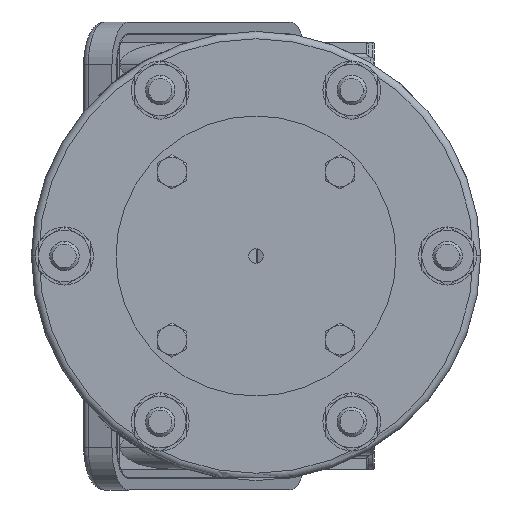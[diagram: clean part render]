
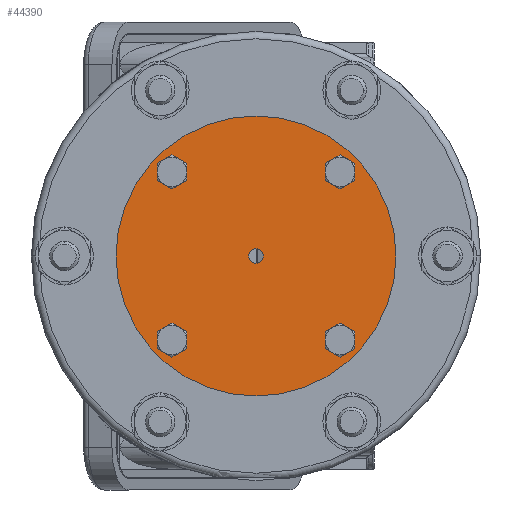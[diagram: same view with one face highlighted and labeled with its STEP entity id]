
A CAD part, front view. The second image highlights one B-rep face of the part: STEP entity #44390.
In plain terms, the highlighted planar face has unit normal (0, -1, 0).
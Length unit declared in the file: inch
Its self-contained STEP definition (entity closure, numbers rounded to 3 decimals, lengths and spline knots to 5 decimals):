
#539 = DIRECTION ( 'NONE',  ( 0., -1., 0. ) ) ;
#1319 = CARTESIAN_POINT ( 'NONE',  ( -0.2265, -4.53075, 0.71344 ) ) ;
#1356 = VERTEX_POINT ( 'NONE', #5481 ) ;
#3603 = EDGE_CURVE ( 'NONE', #22508, #57868, #56050, .T. ) ;
#3733 = CARTESIAN_POINT ( 'NONE',  ( -0.94, -4.53075, 0. ) ) ;
#3799 = CARTESIAN_POINT ( 'NONE',  ( -0.94, -4.53075, 0. ) ) ;
#4141 = DIRECTION ( 'NONE',  ( 1., 0., 0. ) ) ;
#4167 = DIRECTION ( 'NONE',  ( 0., -1., 0. ) ) ;
#5096 = CARTESIAN_POINT ( 'NONE',  ( -1.6535, -4.53075, 0.71344 ) ) ;
#5419 = ORIENTED_EDGE ( 'NONE', *, *, #3603, .F. ) ;
#5481 = CARTESIAN_POINT ( 'NONE',  ( -0.8775, -4.53075, 0. ) ) ;
#5701 = DIRECTION ( 'NONE',  ( 0., -1., 0. ) ) ;
#7085 = ORIENTED_EDGE ( 'NONE', *, *, #58462, .F. ) ;
#8220 = FACE_BOUND ( 'NONE', #11663, .T. ) ;
#8270 = EDGE_CURVE ( 'NONE', #55124, #39692, #61795, .T. ) ;
#8538 = FACE_BOUND ( 'NONE', #29992, .T. ) ;
#8665 = AXIS2_PLACEMENT_3D ( 'NONE', #47287, #41093, #19002 ) ;
#9046 = CARTESIAN_POINT ( 'NONE',  ( -0.2265, -4.53075, -0.71344 ) ) ;
#9051 = AXIS2_PLACEMENT_3D ( 'NONE', #3799, #61443, #35926 ) ;
#9443 = DIRECTION ( 'NONE',  ( 0., -1., 0. ) ) ;
#9507 = EDGE_CURVE ( 'NONE', #1356, #14464, #45748, .T. ) ;
#9526 = EDGE_LOOP ( 'NONE', ( #42397, #5419 ) ) ;
#9826 = CARTESIAN_POINT ( 'NONE',  ( -1.742, -4.53075, -0.71344 ) ) ;
#10007 = DIRECTION ( 'NONE',  ( 1., 0., 0. ) ) ;
#10451 = DIRECTION ( 'NONE',  ( -1., 0., 0. ) ) ;
#11650 = AXIS2_PLACEMENT_3D ( 'NONE', #1319, #5701, #39361 ) ;
#11663 = EDGE_LOOP ( 'NONE', ( #39059, #33867 ) ) ;
#11746 = EDGE_LOOP ( 'NONE', ( #36691, #34339 ) ) ;
#12267 = CARTESIAN_POINT ( 'NONE',  ( -1.565, -4.53075, 0.71344 ) ) ;
#13282 = CIRCLE ( 'NONE', #48417, 0.0625 ) ;
#13859 = VERTEX_POINT ( 'NONE', #12267 ) ;
#14464 = VERTEX_POINT ( 'NONE', #14996 ) ;
#14976 = AXIS2_PLACEMENT_3D ( 'NONE', #58638, #39078, #20208 ) ;
#14996 = CARTESIAN_POINT ( 'NONE',  ( -1.0025, -4.53075, 0. ) ) ;
#15028 = ORIENTED_EDGE ( 'NONE', *, *, #9507, .F. ) ;
#15492 = ORIENTED_EDGE ( 'NONE', *, *, #8270, .F. ) ;
#16575 = EDGE_CURVE ( 'NONE', #29402, #44394, #57440, .T. ) ;
#18043 = AXIS2_PLACEMENT_3D ( 'NONE', #3733, #18848, #47122 ) ;
#18049 = CARTESIAN_POINT ( 'NONE',  ( -1.6535, -4.53075, -0.71344 ) ) ;
#18366 = CARTESIAN_POINT ( 'NONE',  ( -1.565, -4.53075, -0.71344 ) ) ;
#18848 = DIRECTION ( 'NONE',  ( 0., 1., 0. ) ) ;
#19002 = DIRECTION ( 'NONE',  ( 1., 0., 0. ) ) ;
#19269 = DIRECTION ( 'NONE',  ( 0., -1., 0. ) ) ;
#20208 = DIRECTION ( 'NONE',  ( -1., 0., 0. ) ) ;
#20926 = ORIENTED_EDGE ( 'NONE', *, *, #49853, .F. ) ;
#22113 = VERTEX_POINT ( 'NONE', #9826 ) ;
#22120 = EDGE_CURVE ( 'NONE', #39692, #55124, #42747, .T. ) ;
#22332 = AXIS2_PLACEMENT_3D ( 'NONE', #18049, #4167, #23359 ) ;
#22508 = VERTEX_POINT ( 'NONE', #43000 ) ;
#23359 = DIRECTION ( 'NONE',  ( -1., 0., 0. ) ) ;
#23877 = AXIS2_PLACEMENT_3D ( 'NONE', #30350, #50732, #35993 ) ;
#25853 = DIRECTION ( 'NONE',  ( 0., -1., 0. ) ) ;
#26510 = CIRCLE ( 'NONE', #27531, 0.0885 ) ;
#26721 = ORIENTED_EDGE ( 'NONE', *, *, #22120, .F. ) ;
#27405 = FACE_BOUND ( 'NONE', #11746, .T. ) ;
#27531 = AXIS2_PLACEMENT_3D ( 'NONE', #9046, #56595, #42358 ) ;
#29402 = VERTEX_POINT ( 'NONE', #40168 ) ;
#29992 = EDGE_LOOP ( 'NONE', ( #15492, #26721 ) ) ;
#30350 = CARTESIAN_POINT ( 'NONE',  ( -0.94, -4.53075, 0. ) ) ;
#31240 = EDGE_CURVE ( 'NONE', #44394, #29402, #26510, .T. ) ;
#31990 = EDGE_CURVE ( 'NONE', #13859, #40595, #48697, .T. ) ;
#32010 = VERTEX_POINT ( 'NONE', #18366 ) ;
#32660 = AXIS2_PLACEMENT_3D ( 'NONE', #5096, #19269, #51691 ) ;
#33117 = CARTESIAN_POINT ( 'NONE',  ( 0.2475, -4.53075, 0. ) ) ;
#33867 = ORIENTED_EDGE ( 'NONE', *, *, #41811, .F. ) ;
#34339 = ORIENTED_EDGE ( 'NONE', *, *, #31240, .F. ) ;
#35423 = CARTESIAN_POINT ( 'NONE',  ( -0.138, -4.53075, 0.71344 ) ) ;
#35926 = DIRECTION ( 'NONE',  ( -1., 0., 0. ) ) ;
#35993 = DIRECTION ( 'NONE',  ( -1., 0., 0. ) ) ;
#36691 = ORIENTED_EDGE ( 'NONE', *, *, #16575, .F. ) ;
#37168 = PLANE ( 'NONE',  #9051 ) ;
#38675 = CARTESIAN_POINT ( 'NONE',  ( -0.315, -4.53075, -0.71344 ) ) ;
#39059 = ORIENTED_EDGE ( 'NONE', *, *, #49491, .F. ) ;
#39078 = DIRECTION ( 'NONE',  ( 0., -1., 0. ) ) ;
#39359 = CARTESIAN_POINT ( 'NONE',  ( -0.2265, -4.53075, 0.71344 ) ) ;
#39361 = DIRECTION ( 'NONE',  ( -1., 0., 0. ) ) ;
#39692 = VERTEX_POINT ( 'NONE', #49925 ) ;
#40168 = CARTESIAN_POINT ( 'NONE',  ( -0.138, -4.53075, -0.71344 ) ) ;
#40173 = EDGE_LOOP ( 'NONE', ( #15028, #20926 ) ) ;
#40595 = VERTEX_POINT ( 'NONE', #54832 ) ;
#41093 = DIRECTION ( 'NONE',  ( 0., -1., 0. ) ) ;
#41512 = CARTESIAN_POINT ( 'NONE',  ( -0.94, -4.53075, 0. ) ) ;
#41811 = EDGE_CURVE ( 'NONE', #22113, #32010, #49097, .T. ) ;
#42358 = DIRECTION ( 'NONE',  ( 1., 0., 0. ) ) ;
#42397 = ORIENTED_EDGE ( 'NONE', *, *, #59410, .F. ) ;
#42624 = AXIS2_PLACEMENT_3D ( 'NONE', #39359, #25853, #10451 ) ;
#42747 = CIRCLE ( 'NONE', #11650, 0.0885 ) ;
#43000 = CARTESIAN_POINT ( 'NONE',  ( -2.1275, -4.53075, 0. ) ) ;
#44119 = CIRCLE ( 'NONE', #18043, 1.1875 ) ;
#44390 = ADVANCED_FACE ( 'NONE', ( #51316, #8538, #46859, #8220, #27405, #46542 ), #37168, .F. ) ;
#44394 = VERTEX_POINT ( 'NONE', #38675 ) ;
#45748 = CIRCLE ( 'NONE', #8665, 0.0625 ) ;
#46542 = FACE_OUTER_BOUND ( 'NONE', #9526, .T. ) ;
#46844 = DIRECTION ( 'NONE',  ( 1., 0., 0. ) ) ;
#46859 = FACE_BOUND ( 'NONE', #56408, .T. ) ;
#47051 = CIRCLE ( 'NONE', #60207, 0.0885 ) ;
#47122 = DIRECTION ( 'NONE',  ( -1., 0., 0. ) ) ;
#47209 = DIRECTION ( 'NONE',  ( 0., -1., 0. ) ) ;
#47287 = CARTESIAN_POINT ( 'NONE',  ( -0.94, -4.53075, 0. ) ) ;
#47419 = CIRCLE ( 'NONE', #22332, 0.0885 ) ;
#48417 = AXIS2_PLACEMENT_3D ( 'NONE', #41512, #9443, #46844 ) ;
#48697 = CIRCLE ( 'NONE', #32660, 0.0885 ) ;
#49097 = CIRCLE ( 'NONE', #14976, 0.0885 ) ;
#49491 = EDGE_CURVE ( 'NONE', #32010, #22113, #47419, .T. ) ;
#49853 = EDGE_CURVE ( 'NONE', #14464, #1356, #13282, .T. ) ;
#49925 = CARTESIAN_POINT ( 'NONE',  ( -0.315, -4.53075, 0.71344 ) ) ;
#50732 = DIRECTION ( 'NONE',  ( 0., 1., 0. ) ) ;
#51316 = FACE_BOUND ( 'NONE', #40173, .T. ) ;
#51691 = DIRECTION ( 'NONE',  ( 1., 0., 0. ) ) ;
#54832 = CARTESIAN_POINT ( 'NONE',  ( -1.742, -4.53075, 0.71344 ) ) ;
#55124 = VERTEX_POINT ( 'NONE', #35423 ) ;
#55773 = CARTESIAN_POINT ( 'NONE',  ( -0.2265, -4.53075, -0.71344 ) ) ;
#56050 = CIRCLE ( 'NONE', #23877, 1.1875 ) ;
#56408 = EDGE_LOOP ( 'NONE', ( #57004, #7085 ) ) ;
#56448 = AXIS2_PLACEMENT_3D ( 'NONE', #55773, #47209, #4141 ) ;
#56595 = DIRECTION ( 'NONE',  ( 0., -1., 0. ) ) ;
#57004 = ORIENTED_EDGE ( 'NONE', *, *, #31990, .F. ) ;
#57440 = CIRCLE ( 'NONE', #56448, 0.0885 ) ;
#57868 = VERTEX_POINT ( 'NONE', #33117 ) ;
#58164 = CARTESIAN_POINT ( 'NONE',  ( -1.6535, -4.53075, 0.71344 ) ) ;
#58462 = EDGE_CURVE ( 'NONE', #40595, #13859, #47051, .T. ) ;
#58638 = CARTESIAN_POINT ( 'NONE',  ( -1.6535, -4.53075, -0.71344 ) ) ;
#59410 = EDGE_CURVE ( 'NONE', #57868, #22508, #44119, .T. ) ;
#60207 = AXIS2_PLACEMENT_3D ( 'NONE', #58164, #539, #10007 ) ;
#61443 = DIRECTION ( 'NONE',  ( 0., 1., 0. ) ) ;
#61795 = CIRCLE ( 'NONE', #42624, 0.0885 ) ;
